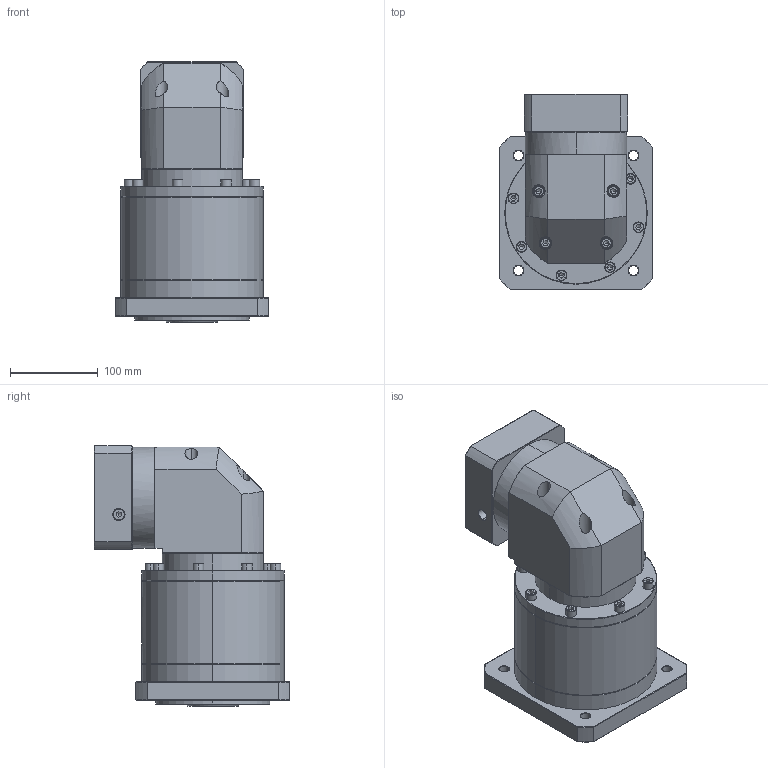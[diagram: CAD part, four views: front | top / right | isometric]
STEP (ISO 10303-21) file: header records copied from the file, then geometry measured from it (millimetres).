
FILE_DESCRIPTION (( 'STEP AP214' ), '1' );
FILE_NAME ('ZFR160A-K35-L3-P2-24-110-130-M8.step', '2023-09-03T09:46:00', ( '' ), ( '' ), 'SwSTEP 2.0', 'SolidWorks 2016', '' );
FILE_SCHEMA (( 'AUTOMOTIVE_DESIGN' ));
Length unit declared in the file: millimetre
Products named in the file (1): ZFR160A-K35-L3-P2-24-110-130-M8
Bounding box: 175 x 222.4 x 296.2 mm (x, y, z)
Volume: 5460444.8 mm3; surface area: 353616.7 mm2
Topology: 6 solids, 6 shells, 2413 faces, 6326 edges, 4039 vertices
Faces by surface type: plane 1139, cylinder 462, bspline 403, cone 365, torus 44
Entity records: 126440 total; most frequent: CARTESIAN_POINT 45582, ORIENTED_EDGE 12548, DIRECTION 9570, EDGE_CURVE 6274, VERTEX_POINT 4039, VECTOR 3384, LINE 3384, AXIS2_PLACEMENT_3D 3093
